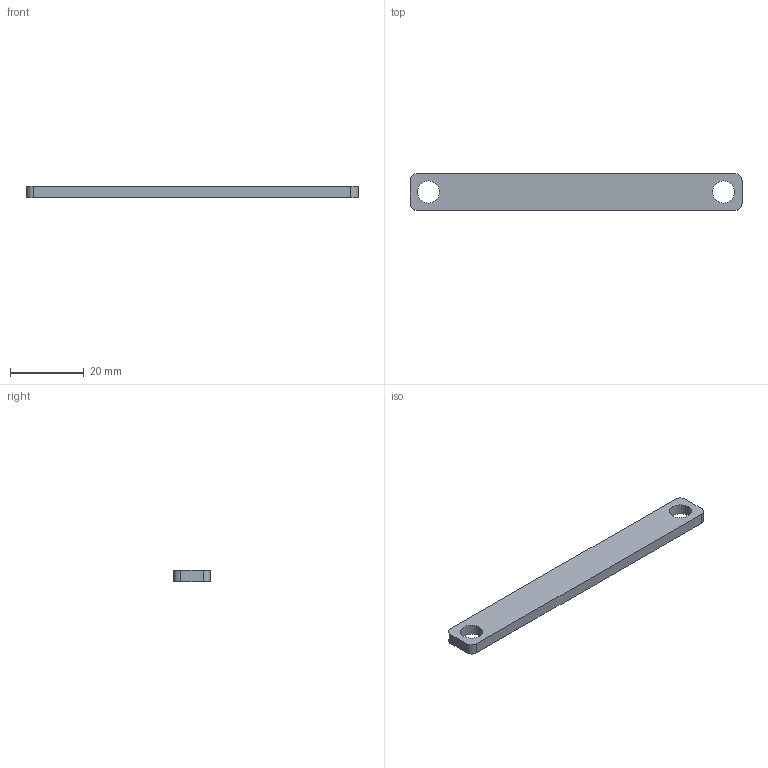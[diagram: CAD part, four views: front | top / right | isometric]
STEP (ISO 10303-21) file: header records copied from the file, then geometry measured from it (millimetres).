
FILE_DESCRIPTION(('CATIA V5 STEP Exchange'),'2;1');
FILE_NAME('C:\Users\FBAERT\Documents\Vis Casque\Barre C.stp','2020-04-09T09:46:13+00:00',('none'),('none'),'CATIA Version 5 Release 20 GA (IN-10)','CATIA V5 STEP AP203','none');
FILE_SCHEMA(('CONFIG_CONTROL_DESIGN'));
Length unit declared in the file: millimetre
Products named in the file (1): Barre C
Bounding box: 90 x 10 x 3 mm (x, y, z)
Volume: 2520.1 mm3; surface area: 2382.8 mm2
Topology: 1 solids, 1 shells, 14 faces, 36 edges, 24 vertices
Faces by surface type: cylinder 8, plane 6
Entity records: 460 total; most frequent: CARTESIAN_POINT 73, ORIENTED_EDGE 72, DIRECTION 60, EDGE_CURVE 36, AXIS2_PLACEMENT_3D 29, VERTEX_POINT 24, VECTOR 20, LINE 20
